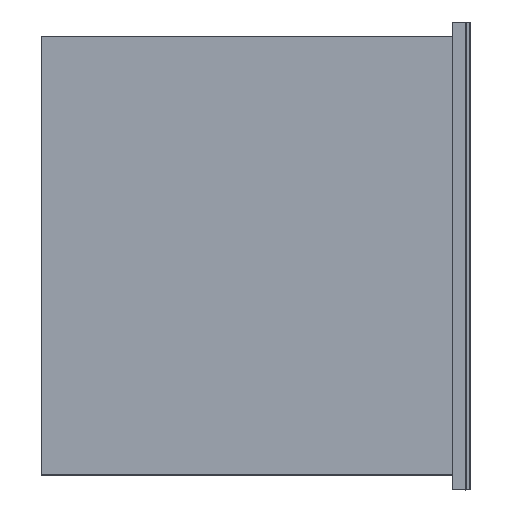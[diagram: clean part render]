
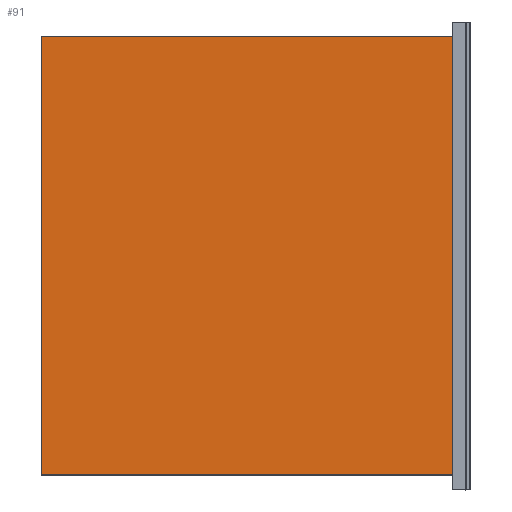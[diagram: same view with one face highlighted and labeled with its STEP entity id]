
A CAD part, top view. The second image highlights one B-rep face of the part: STEP entity #91.
In plain terms, the highlighted free-form (B-spline) face has degree [1, 1] with [2, 2] control points.
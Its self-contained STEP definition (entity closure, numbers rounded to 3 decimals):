
#91=ADVANCED_FACE('',(#119),#375,.T.);
#119=FACE_OUTER_BOUND('',#147,.T.);
#147=EDGE_LOOP('',(#253,#254,#255,#256));
#253=ORIENTED_EDGE('',*,*,#316,.F.);
#254=ORIENTED_EDGE('',*,*,#308,.T.);
#255=ORIENTED_EDGE('',*,*,#315,.T.);
#256=ORIENTED_EDGE('',*,*,#310,.F.);
#308=EDGE_CURVE('',#346,#348,#416,.T.);
#310=EDGE_CURVE('',#349,#351,#418,.T.);
#315=EDGE_CURVE('',#348,#351,#423,.T.);
#316=EDGE_CURVE('',#346,#349,#424,.T.);
#346=VERTEX_POINT('',#777);
#348=VERTEX_POINT('',#779);
#349=VERTEX_POINT('',#780);
#351=VERTEX_POINT('',#782);
#375=B_SPLINE_SURFACE_WITH_KNOTS('',1,1,((#768,#769),(#770,#771)),.UNSPECIFIED.,
.F.,.F.,.F.,(2,2),(2,2),(0.,1.),(0.,1.),.UNSPECIFIED.);
#416=B_SPLINE_CURVE_WITH_KNOTS('',1,(#734,#735),.UNSPECIFIED.,.F.,.F.,(2,
2),(0.,1.),.UNSPECIFIED.);
#418=B_SPLINE_CURVE_WITH_KNOTS('',1,(#738,#739),.UNSPECIFIED.,.F.,.F.,(2,
2),(0.,1.),.UNSPECIFIED.);
#423=B_SPLINE_CURVE_WITH_KNOTS('',1,(#748,#749),.UNSPECIFIED.,.F.,.F.,(2,
2),(0.,1.),.UNSPECIFIED.);
#424=B_SPLINE_CURVE_WITH_KNOTS('',1,(#750,#751),.UNSPECIFIED.,.F.,.F.,(2,
2),(0.,1.),.UNSPECIFIED.);
#734=CARTESIAN_POINT('',(-0.014,-278.075,141.128));
#735=CARTESIAN_POINT('',(-0.014,279.425,141.128));
#738=CARTESIAN_POINT('',(-523.658,-278.075,141.128));
#739=CARTESIAN_POINT('',(-523.658,279.425,141.128));
#748=CARTESIAN_POINT('',(-0.014,279.425,141.128));
#749=CARTESIAN_POINT('',(-523.658,279.425,141.128));
#750=CARTESIAN_POINT('',(-0.014,-278.075,141.128));
#751=CARTESIAN_POINT('',(-523.658,-278.075,141.128));
#768=CARTESIAN_POINT('',(-0.014,-278.075,141.128));
#769=CARTESIAN_POINT('',(-523.658,-278.075,141.128));
#770=CARTESIAN_POINT('',(-0.014,279.425,141.128));
#771=CARTESIAN_POINT('',(-523.658,279.425,141.128));
#777=CARTESIAN_POINT('',(-0.014,-278.075,141.128));
#779=CARTESIAN_POINT('',(-0.014,279.425,141.128));
#780=CARTESIAN_POINT('',(-523.658,-278.075,141.128));
#782=CARTESIAN_POINT('',(-523.658,279.425,141.128));
